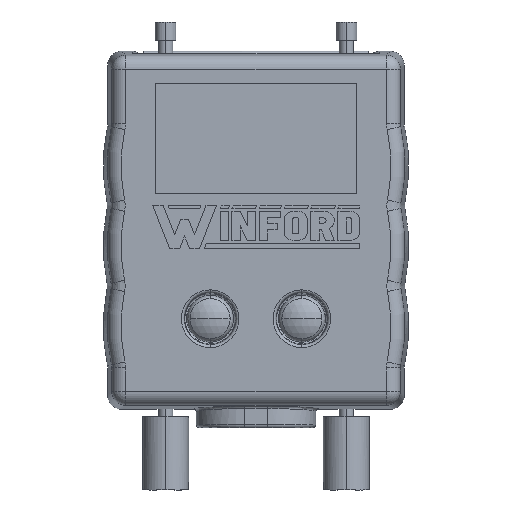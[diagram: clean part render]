
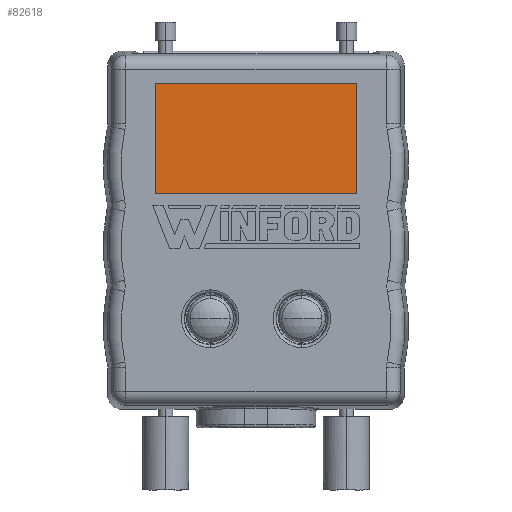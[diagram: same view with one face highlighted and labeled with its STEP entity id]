
A CAD part, front view. The second image highlights one B-rep face of the part: STEP entity #82618.
In plain terms, the highlighted planar face has unit normal (0, -1, 0).
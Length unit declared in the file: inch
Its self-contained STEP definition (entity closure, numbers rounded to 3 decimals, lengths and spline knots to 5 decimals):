
#4068 = EDGE_CURVE ( 'NONE', #5930, #80885, #15460, .T. ) ;
#5373 = CARTESIAN_POINT ( 'NONE',  ( -1.3575, 0.015, -0.775 ) ) ;
#5930 = VERTEX_POINT ( 'NONE', #5373 ) ;
#7612 = AXIS2_PLACEMENT_3D ( 'NONE', #58045, #95405, #76744 ) ;
#8655 = ORIENTED_EDGE ( 'NONE', *, *, #27511, .T. ) ;
#15460 = LINE ( 'NONE', #124199, #91166 ) ;
#19094 = CARTESIAN_POINT ( 'NONE',  ( -0.2575, 0.015, -0.175 ) ) ;
#20319 = EDGE_CURVE ( 'NONE', #60418, #51110, #53041, .T. ) ;
#21671 = CARTESIAN_POINT ( 'NONE',  ( -0.2575, 0.015, -0.175 ) ) ;
#27511 = EDGE_CURVE ( 'NONE', #80885, #60418, #46555, .T. ) ;
#27637 = PLANE ( 'NONE',  #7612 ) ;
#28027 = DIRECTION ( 'NONE',  ( 1., 0., 0. ) ) ;
#30458 = CARTESIAN_POINT ( 'NONE',  ( -1.3575, 0.015, -0.175 ) ) ;
#46555 = LINE ( 'NONE', #21671, #61715 ) ;
#48027 = DIRECTION ( 'NONE',  ( -1., 0., 0. ) ) ;
#49105 = VECTOR ( 'NONE', #107106, 39.37008 ) ;
#50831 = CARTESIAN_POINT ( 'NONE',  ( -0.2575, 0.015, -0.775 ) ) ;
#51110 = VERTEX_POINT ( 'NONE', #93767 ) ;
#53041 = LINE ( 'NONE', #96717, #66595 ) ;
#57002 = ORIENTED_EDGE ( 'NONE', *, *, #71908, .T. ) ;
#58045 = CARTESIAN_POINT ( 'NONE',  ( 0., 0.015, 0. ) ) ;
#60418 = VERTEX_POINT ( 'NONE', #19094 ) ;
#61715 = VECTOR ( 'NONE', #108062, 39.37008 ) ;
#66595 = VECTOR ( 'NONE', #48027, 39.37008 ) ;
#70908 = EDGE_LOOP ( 'NONE', ( #8655, #123232, #57002, #110057 ) ) ;
#71908 = EDGE_CURVE ( 'NONE', #51110, #5930, #77896, .T. ) ;
#76744 = DIRECTION ( 'NONE',  ( 0., 0., -1. ) ) ;
#77896 = LINE ( 'NONE', #30458, #49105 ) ;
#80885 = VERTEX_POINT ( 'NONE', #50831 ) ;
#82618 = ADVANCED_FACE ( 'NONE', ( #98489 ), #27637, .T. ) ;
#91166 = VECTOR ( 'NONE', #28027, 39.37008 ) ;
#93767 = CARTESIAN_POINT ( 'NONE',  ( -1.3575, 0.015, -0.175 ) ) ;
#95405 = DIRECTION ( 'NONE',  ( 0., -1., 0. ) ) ;
#96717 = CARTESIAN_POINT ( 'NONE',  ( -1.3575, 0.015, -0.175 ) ) ;
#98489 = FACE_OUTER_BOUND ( 'NONE', #70908, .T. ) ;
#107106 = DIRECTION ( 'NONE',  ( 0., 0., -1. ) ) ;
#108062 = DIRECTION ( 'NONE',  ( 0., 0., 1. ) ) ;
#110057 = ORIENTED_EDGE ( 'NONE', *, *, #4068, .T. ) ;
#123232 = ORIENTED_EDGE ( 'NONE', *, *, #20319, .T. ) ;
#124199 = CARTESIAN_POINT ( 'NONE',  ( -1.3575, 0.015, -0.775 ) ) ;
